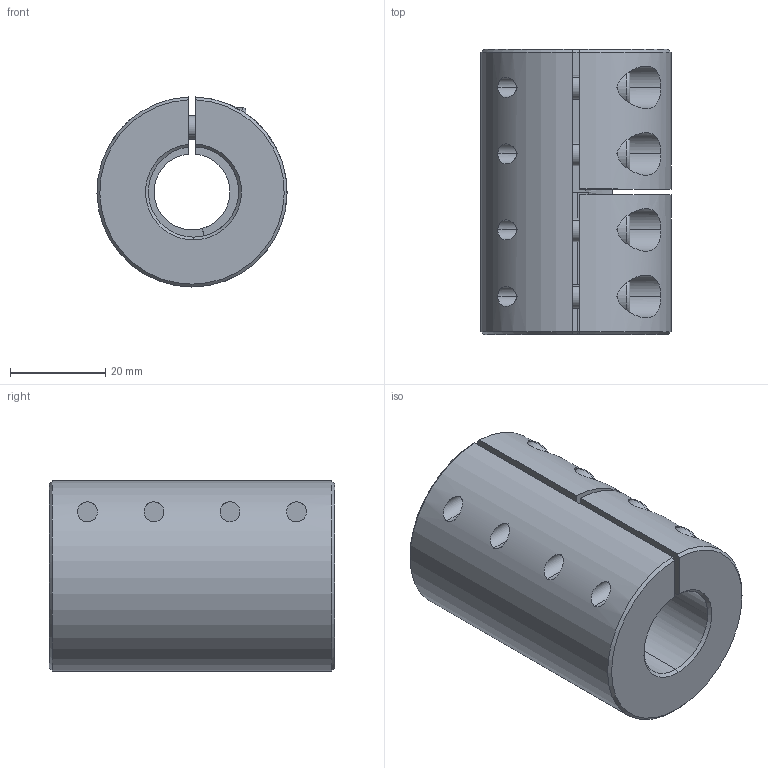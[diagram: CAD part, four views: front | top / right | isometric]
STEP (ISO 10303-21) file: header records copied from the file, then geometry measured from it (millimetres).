
FILE_DESCRIPTION (( 'STEP AP214' ), '1' );
FILE_NAME ('LL-B-D40L60-16-19½¨Ä£.STEP', '2022-07-22T01:03:10', ( '' ), ( '' ), 'SwSTEP 2.0', 'SolidWorks 2022', '' );
FILE_SCHEMA (( 'AUTOMOTIVE_DESIGN' ));
Length unit declared in the file: millimetre
Products named in the file (1): LL-B-D40L60-16-19膘耀
Bounding box: 40 x 60 x 39.99 mm (x, y, z)
Volume: 57835.6 mm3; surface area: 17378.1 mm2
Topology: 1 solids, 1 shells, 176 faces, 444 edges, 278 vertices
Faces by surface type: plane 84, cylinder 70, cone 14, torus 8
Entity records: 5801 total; most frequent: CARTESIAN_POINT 1475, DIRECTION 941, ORIENTED_EDGE 872, EDGE_CURVE 436, AXIS2_PLACEMENT_3D 368, VERTEX_POINT 278, EDGE_LOOP 208, VECTOR 205
